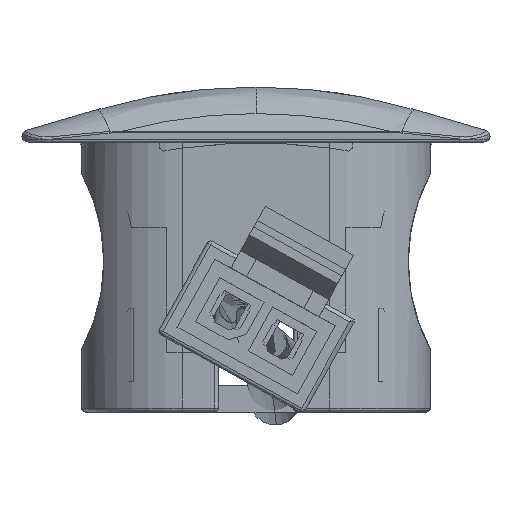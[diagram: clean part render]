
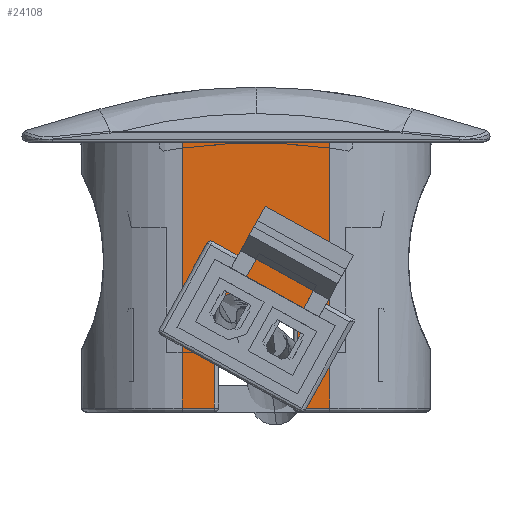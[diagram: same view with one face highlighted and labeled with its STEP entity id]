
A CAD part, front view. The second image highlights one B-rep face of the part: STEP entity #24108.
In plain terms, the highlighted planar face has unit normal (0, -1, 0).
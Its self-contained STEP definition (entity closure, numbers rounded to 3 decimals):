
#22 = CARTESIAN_POINT ( 'NONE',  ( -1.56, -205.2, 4.7 ) ) ;
#378 = EDGE_CURVE ( 'NONE', #14197, #18778, #15254, .T. ) ;
#436 = VECTOR ( 'NONE', #12570, 1000. ) ;
#484 = CARTESIAN_POINT ( 'NONE',  ( 15., -205.2, 0.2 ) ) ;
#1224 = LINE ( 'NONE', #23421, #22940 ) ;
#1947 = AXIS2_PLACEMENT_3D ( 'NONE', #22, #20435, #22265 ) ;
#1951 = ORIENTED_EDGE ( 'NONE', *, *, #12428, .T. ) ;
#2227 = LINE ( 'NONE', #2363, #13273 ) ;
#2288 = ORIENTED_EDGE ( 'NONE', *, *, #378, .F. ) ;
#2363 = CARTESIAN_POINT ( 'NONE',  ( -3.661, -205.2, 27.748 ) ) ;
#2465 = CARTESIAN_POINT ( 'NONE',  ( -2.06, -205.2, 0.2 ) ) ;
#2725 = PLANE ( 'NONE',  #19512 ) ;
#2943 = LINE ( 'NONE', #16548, #22293 ) ;
#3162 = VECTOR ( 'NONE', #10794, 1000. ) ;
#3996 = EDGE_CURVE ( 'NONE', #16766, #28012, #2943, .T. ) ;
#4130 = VECTOR ( 'NONE', #25806, 1000. ) ;
#4436 = ORIENTED_EDGE ( 'NONE', *, *, #19986, .T. ) ;
#4961 = VERTEX_POINT ( 'NONE', #25035 ) ;
#5051 = FACE_OUTER_BOUND ( 'NONE', #15105, .T. ) ;
#5766 = LINE ( 'NONE', #26073, #436 ) ;
#6427 = VERTEX_POINT ( 'NONE', #28558 ) ;
#7059 = CARTESIAN_POINT ( 'NONE',  ( 2.06, -205.2, 4.7 ) ) ;
#7061 = EDGE_CURVE ( 'NONE', #8007, #16766, #13665, .T. ) ;
#7122 = ORIENTED_EDGE ( 'NONE', *, *, #19029, .T. ) ;
#8007 = VERTEX_POINT ( 'NONE', #8659 ) ;
#8313 = AXIS2_PLACEMENT_3D ( 'NONE', #18812, #16758, #16899 ) ;
#8659 = CARTESIAN_POINT ( 'NONE',  ( -3.661, -205.2, 0.2 ) ) ;
#9192 = CARTESIAN_POINT ( 'NONE',  ( 1.56, -205.2, 5.2 ) ) ;
#9767 = LINE ( 'NONE', #16751, #19160 ) ;
#9809 = DIRECTION ( 'NONE',  ( 1., 0., 0. ) ) ;
#9925 = DIRECTION ( 'NONE',  ( 1., 0., 0. ) ) ;
#10050 = VERTEX_POINT ( 'NONE', #7059 ) ;
#10097 = DIRECTION ( 'NONE',  ( -1., 0., 0. ) ) ;
#10268 = VERTEX_POINT ( 'NONE', #28836 ) ;
#10794 = DIRECTION ( 'NONE',  ( 0., 0., -1. ) ) ;
#11494 = DIRECTION ( 'NONE',  ( 0., 0., -1. ) ) ;
#11812 = VECTOR ( 'NONE', #9809, 1000. ) ;
#12428 = EDGE_CURVE ( 'NONE', #10050, #6427, #9767, .T. ) ;
#12570 = DIRECTION ( 'NONE',  ( 1., 0., 0. ) ) ;
#12775 = CIRCLE ( 'NONE', #1947, 0.5 ) ;
#13273 = VECTOR ( 'NONE', #11494, 1000. ) ;
#13283 = ORIENTED_EDGE ( 'NONE', *, *, #15056, .T. ) ;
#13665 = LINE ( 'NONE', #22891, #11812 ) ;
#14060 = DIRECTION ( 'NONE',  ( 0., 0., -1. ) ) ;
#14197 = VERTEX_POINT ( 'NONE', #25043 ) ;
#15056 = EDGE_CURVE ( 'NONE', #6427, #18778, #16609, .T. ) ;
#15105 = EDGE_LOOP ( 'NONE', ( #1951, #13283, #2288, #17030, #27892, #26459, #28022, #4436, #7122, #16113 ) ) ;
#15254 = LINE ( 'NONE', #24292, #3162 ) ;
#15408 = CARTESIAN_POINT ( 'NONE',  ( 3.661, -205.2, 0.2 ) ) ;
#15419 = CIRCLE ( 'NONE', #8313, 0.5 ) ;
#16113 = ORIENTED_EDGE ( 'NONE', *, *, #27761, .T. ) ;
#16548 = CARTESIAN_POINT ( 'NONE',  ( -2.06, -205.2, 44.575 ) ) ;
#16609 = LINE ( 'NONE', #484, #4130 ) ;
#16751 = CARTESIAN_POINT ( 'NONE',  ( 2.06, -205.2, 44.575 ) ) ;
#16758 = DIRECTION ( 'NONE',  ( 0., 1., 0. ) ) ;
#16766 = VERTEX_POINT ( 'NONE', #2465 ) ;
#16899 = DIRECTION ( 'NONE',  ( 0., 0., 1. ) ) ;
#17030 = ORIENTED_EDGE ( 'NONE', *, *, #26802, .F. ) ;
#18778 = VERTEX_POINT ( 'NONE', #15408 ) ;
#18812 = CARTESIAN_POINT ( 'NONE',  ( 1.56, -205.2, 4.7 ) ) ;
#19029 = EDGE_CURVE ( 'NONE', #4961, #20949, #5766, .T. ) ;
#19160 = VECTOR ( 'NONE', #14060, 1000. ) ;
#19512 = AXIS2_PLACEMENT_3D ( 'NONE', #21387, #25827, #10097 ) ;
#19986 = EDGE_CURVE ( 'NONE', #28012, #4961, #12775, .T. ) ;
#20435 = DIRECTION ( 'NONE',  ( 0., 1., 0. ) ) ;
#20949 = VERTEX_POINT ( 'NONE', #9192 ) ;
#21387 = CARTESIAN_POINT ( 'NONE',  ( 15., -205.2, 44.575 ) ) ;
#22231 = EDGE_CURVE ( 'NONE', #10268, #8007, #2227, .T. ) ;
#22265 = DIRECTION ( 'NONE',  ( -1., 0., 0. ) ) ;
#22293 = VECTOR ( 'NONE', #25745, 1000. ) ;
#22891 = CARTESIAN_POINT ( 'NONE',  ( 15., -205.2, 0.2 ) ) ;
#22940 = VECTOR ( 'NONE', #9925, 1000. ) ;
#23421 = CARTESIAN_POINT ( 'NONE',  ( 15., -205.2, 13.399 ) ) ;
#24108 = ADVANCED_FACE ( 'NONE', ( #5051 ), #2725, .F. ) ;
#24292 = CARTESIAN_POINT ( 'NONE',  ( 3.661, -205.2, 27.748 ) ) ;
#25035 = CARTESIAN_POINT ( 'NONE',  ( -1.56, -205.2, 5.2 ) ) ;
#25043 = CARTESIAN_POINT ( 'NONE',  ( 3.661, -205.2, 13.399 ) ) ;
#25745 = DIRECTION ( 'NONE',  ( 0., 0., 1. ) ) ;
#25806 = DIRECTION ( 'NONE',  ( 1., 0., 0. ) ) ;
#25827 = DIRECTION ( 'NONE',  ( 0., 1., 0. ) ) ;
#26073 = CARTESIAN_POINT ( 'NONE',  ( 1.557, -205.2, 5.2 ) ) ;
#26459 = ORIENTED_EDGE ( 'NONE', *, *, #7061, .T. ) ;
#26802 = EDGE_CURVE ( 'NONE', #10268, #14197, #1224, .T. ) ;
#27761 = EDGE_CURVE ( 'NONE', #20949, #10050, #15419, .T. ) ;
#27892 = ORIENTED_EDGE ( 'NONE', *, *, #22231, .T. ) ;
#27953 = CARTESIAN_POINT ( 'NONE',  ( -2.06, -205.2, 4.7 ) ) ;
#28012 = VERTEX_POINT ( 'NONE', #27953 ) ;
#28022 = ORIENTED_EDGE ( 'NONE', *, *, #3996, .T. ) ;
#28558 = CARTESIAN_POINT ( 'NONE',  ( 2.06, -205.2, 0.2 ) ) ;
#28836 = CARTESIAN_POINT ( 'NONE',  ( -3.661, -205.2, 13.399 ) ) ;
